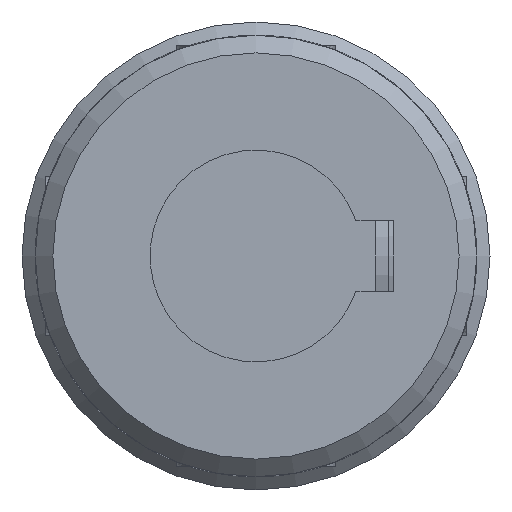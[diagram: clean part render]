
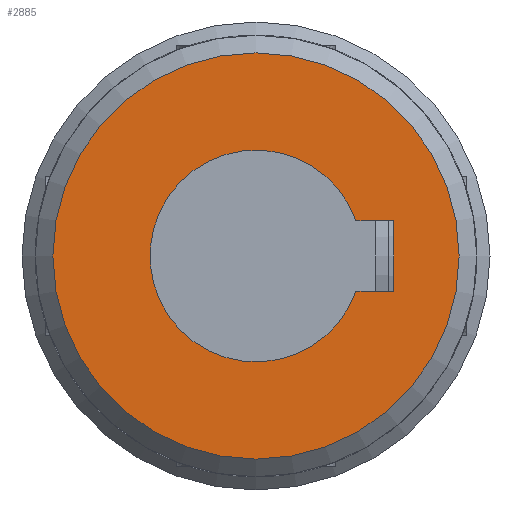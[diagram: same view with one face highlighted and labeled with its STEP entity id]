
A CAD part, left-side view. The second image highlights one B-rep face of the part: STEP entity #2885.
In plain terms, the highlighted planar face has unit normal (-1, 0, 0) as drawn and (0, -1, 0) by its records, which use the part's own axes.
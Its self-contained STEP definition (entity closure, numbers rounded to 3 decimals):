
#216=FACE_BOUND('',#652,.T.);
#287=PLANE('',#3184);
#441=FACE_OUTER_BOUND('',#651,.T.);
#651=EDGE_LOOP('',(#2509));
#652=EDGE_LOOP('',(#2510,#2511,#2512,#2513));
#832=LINE('',#5262,#985);
#837=LINE('',#5279,#990);
#838=LINE('',#5292,#991);
#985=VECTOR('',#3871,2.143);
#990=VECTOR('',#3882,2.143);
#991=VECTOR('',#3885,4.);
#1126=CIRCLE('',#3172,6.);
#1131=CIRCLE('',#3182,11.5);
#1373=VERTEX_POINT('',#5251);
#1374=VERTEX_POINT('',#5253);
#1376=VERTEX_POINT('',#5261);
#1382=VERTEX_POINT('',#5277);
#1384=VERTEX_POINT('',#5298);
#1751=EDGE_CURVE('',#1374,#1373,#1126,.T.);
#1754=EDGE_CURVE('',#1376,#1374,#832,.T.);
#1762=EDGE_CURVE('',#1373,#1382,#837,.T.);
#1764=EDGE_CURVE('',#1382,#1376,#838,.T.);
#1767=EDGE_CURVE('',#1384,#1384,#1131,.T.);
#2509=ORIENTED_EDGE('',*,*,#1767,.F.);
#2510=ORIENTED_EDGE('',*,*,#1762,.T.);
#2511=ORIENTED_EDGE('',*,*,#1764,.T.);
#2512=ORIENTED_EDGE('',*,*,#1754,.T.);
#2513=ORIENTED_EDGE('',*,*,#1751,.T.);
#2885=ADVANCED_FACE('',(#441,#216),#287,.F.);
#3172=AXIS2_PLACEMENT_3D('',#5254,#3866,#3867);
#3182=AXIS2_PLACEMENT_3D('',#5299,#3894,#3895);
#3184=AXIS2_PLACEMENT_3D('',#5515,#3902,#3903);
#3866=DIRECTION('center_axis',(0.,1.,0.));
#3867=DIRECTION('ref_axis',(0.333,0.,-0.943));
#3871=DIRECTION('',(0.,0.,1.));
#3882=DIRECTION('',(0.,0.,-1.));
#3885=DIRECTION('',(-1.,0.,0.));
#3894=DIRECTION('center_axis',(0.,1.,0.));
#3895=DIRECTION('ref_axis',(1.,0.,0.));
#3902=DIRECTION('center_axis',(0.,1.,0.));
#3903=DIRECTION('ref_axis',(0.,0.,1.));
#5251=CARTESIAN_POINT('',(2.,-34.5,-5.657));
#5253=CARTESIAN_POINT('',(-2.,-34.5,-5.657));
#5254=CARTESIAN_POINT('Origin',(0.,-34.5,0.));
#5261=CARTESIAN_POINT('',(-2.,-34.5,-7.8));
#5262=CARTESIAN_POINT('',(-2.,-34.5,-3.9));
#5277=CARTESIAN_POINT('',(2.,-34.5,-7.8));
#5279=CARTESIAN_POINT('',(2.,-34.5,-2.828));
#5292=CARTESIAN_POINT('',(1.,-34.5,-7.8));
#5298=CARTESIAN_POINT('',(-11.5,-34.5,0.));
#5299=CARTESIAN_POINT('Origin',(0.,-34.5,0.));
#5515=CARTESIAN_POINT('Origin',(0.,-34.5,0.));
